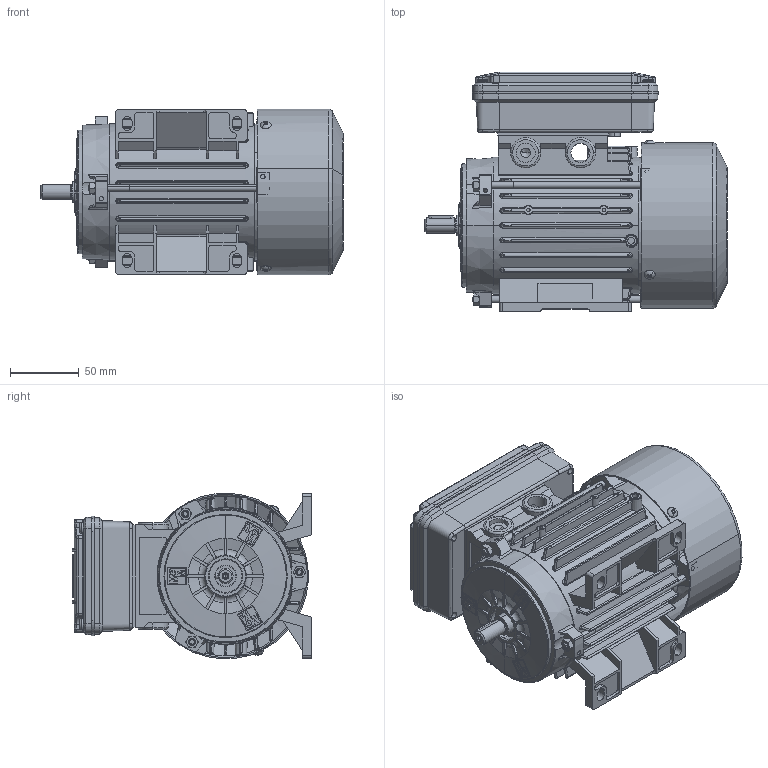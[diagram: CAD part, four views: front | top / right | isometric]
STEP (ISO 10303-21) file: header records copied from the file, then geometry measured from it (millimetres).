
FILE_DESCRIPTION (( 'STEP AP214' ), '1' );
FILE_NAME ('M24BA0010.STEP', '2020-11-03T10:06:28', ( '' ), ( '' ), 'SwSTEP 2.0', 'SolidWorks 2018', '' );
FILE_SCHEMA (( 'AUTOMOTIVE_DESIGN' ));
Length unit declared in the file: millimetre
Products named in the file (15): Scatola per Morsettiera Doppia 63-71-80 - Completa; Guarnizione Scatola Singola 63-71-80; Guarnizione Doppia Scatola gr. 63-71-80 - DBAM0094; Vite per coperchio morsettiera; Coperchio per Scatola per Morsettiera Doppia 63-71-80; Scatola per Morsettiera Doppia 63-71-80; Chiavetta 63; Dado M5; Vite testa rotonda M3; Cuffia SM 63 - DAA40098; Tirante BA SM 63; Scudo Lato Comando B3 BM 63 - DAAD0194; Albero SM 63 - DAD10095; Carcassa 63 B3; M24BA0010
Assembly tree (24 placements, depth 3):
  M24BA0010
    Carcassa 63 B3
    Albero SM 63 - DAD10095
    Scudo Lato Comando B3 BM 63 - DAAD0194  x2
    Tirante BA SM 63  x3
    Cuffia SM 63 - DAA40098
    Vite testa rotonda M3  x3
    Dado M5  x3
    Chiavetta 63
    Scatola per Morsettiera Doppia 63-71-80 - Completa
      Scatola per Morsettiera Doppia 63-71-80
      Coperchio per Scatola per Morsettiera Doppia 63-71-80
      Vite per coperchio morsettiera  x4
      Guarnizione Doppia Scatola gr. 63-71-80 - DBAM0094
      Guarnizione Scatola Singola 63-71-80
Bounding box: 220.5 x 175 x 120.79 mm (x, y, z)
Volume: 548559.9 mm3; surface area: 375867.9 mm2
Topology: 38 solids, 38 shells, 3704 faces, 9953 edges, 6302 vertices
Faces by surface type: plane 1465, cylinder 1108, torus 401, cone 328, bspline 298, sphere 104
Entity records: 99784 total; most frequent: CARTESIAN_POINT 33279, ORIENTED_EDGE 14464, DIRECTION 12893, EDGE_CURVE 7232, AXIS2_PLACEMENT_3D 4865, VERTEX_POINT 4600, LINE 3163, VECTOR 3163
